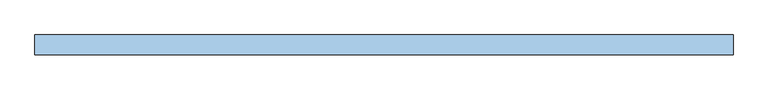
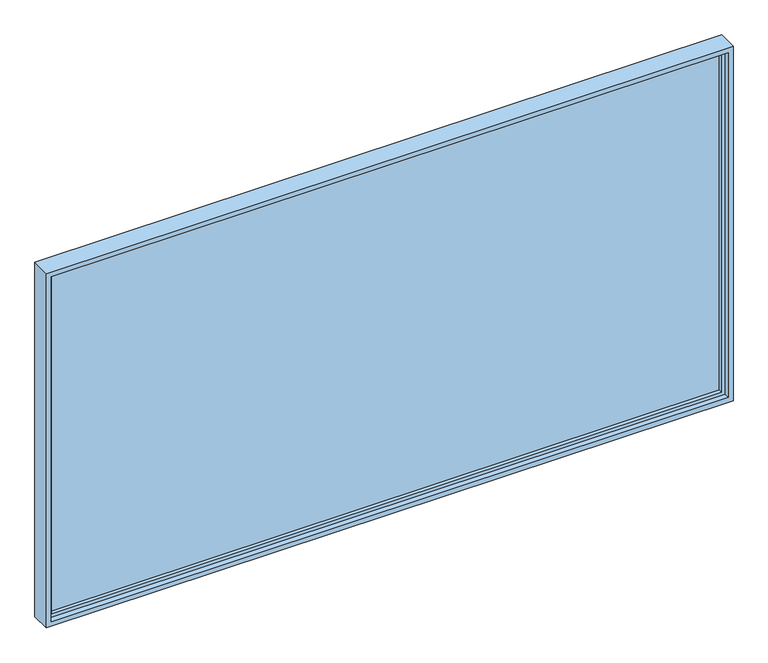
"""IFC4 building model written with IfcOpenShell, lengths in millimetres: window geometry, WD000-창 : WD000-창 5500x3000."""

from ifc_helpers import new_model, si_unit, frame, origin, place, context, project, spatial, polyline, outline, extrude, source, transform, mapped, element, save


def window_f4563ead(model_context):
    return source(origin(), model_context, "Body", "SweptSolid", [
        extrude(outline(polyline([(2680.0, 6.0), (2680.0, -6.0), (-2680.0, -6.0), (-2680.0, 6.0), (2680.0, 6.0)])), frame((0.0, 0.0, 870.0), z_axis=(0.0, 0.0, 1.0), x_axis=(1.0, 0.0, 0.0)), (0.0, 0.0, 1.0), 2860.0),
        extrude(outline(polyline([(3760.0, -2710.0), (840.0, -2710.0), (840.0, 2710.0), (3760.0, 2710.0), (3760.0, -2710.0)]), holes=[polyline([(3730.0, 2680.0), (870.0, 2680.0), (870.0, -2680.0), (3730.0, -2680.0), (3730.0, 2680.0)])]), frame((0.0, -35.0, 0.0), z_axis=(0.0, 1.0, 0.0), x_axis=(0.0, 0.0, 1.0)), (0.0, 0.0, 1.0), 70.0),
        extrude(outline(polyline([(3800.0, 2750.0), (3800.0, -2750.0), (800.0, -2750.0), (800.0, 2750.0), (3800.0, 2750.0)]), holes=[polyline([(3760.0, 2710.0), (840.0, 2710.0), (840.0, -2710.0), (3760.0, -2710.0), (3760.0, 2710.0)])]), frame((0.0, -78.6430223, 0.0), z_axis=(0.0, 1.0, 0.0), x_axis=(0.0, 0.0, 1.0)), (0.0, 0.0, 1.0), 157.2860446),
    ])


if __name__ == "__main__":
    model = new_model("IFC4")
    model_context = context("Model", 3, world=origin())
    ifc_project = project(units=[si_unit("LENGTHUNIT", "METRE", prefix="MILLI")], contexts=[model_context])
    site = spatial("IfcSite", under=ifc_project)
    building = spatial("IfcBuilding", under=site)
    placement = place(None, origin())
    window_shape = window_f4563ead(model_context)
    element("IfcWindow", 1, ObjectType="WD000-창 : WD000-창 5500x3000", at=placement, inside=building, context=model_context, shape_type="MappedRepresentation", body=[
        mapped(window_shape, transform((0.0, 0.0, 0.0), x_axis=(1.0, 0.0, 0.0), y_axis=(0.0, 1.0, 0.0), z_axis=(0.0, 0.0, 1.0))),
    ])
    save(model, "model.ifc")
